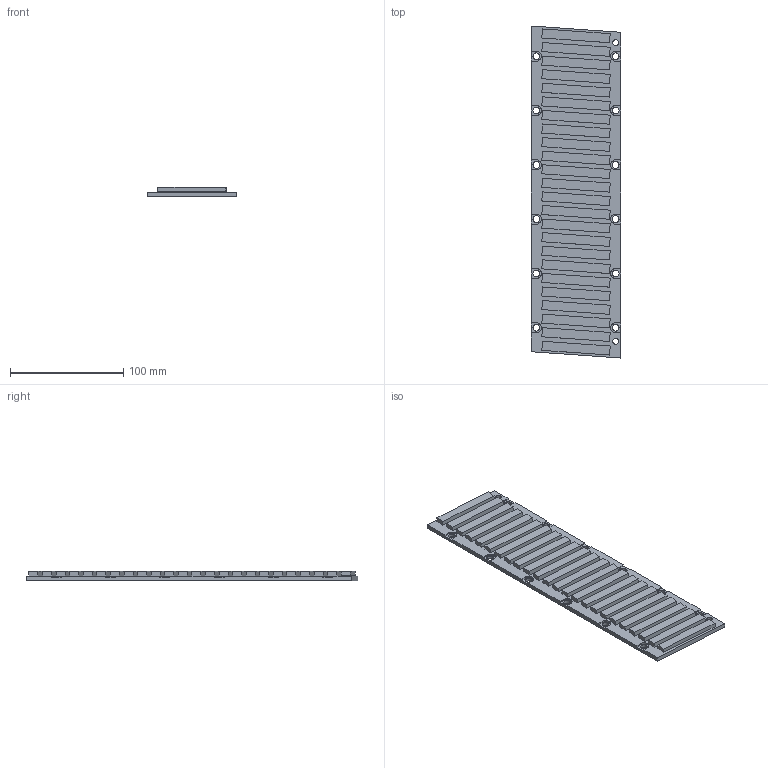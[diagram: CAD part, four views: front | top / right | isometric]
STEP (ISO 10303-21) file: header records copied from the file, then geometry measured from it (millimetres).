
FILE_DESCRIPTION (( 'STEP AP214' ), '1' );
FILE_NAME ('MPV76-288.STEP', '2024-07-24T02:00:52', ( '' ), ( '' ), 'SwSTEP 2.0', 'SolidWorks 2019', '' );
FILE_SCHEMA (( 'AUTOMOTIVE_DESIGN' ));
Length unit declared in the file: millimetre
Products named in the file (1): MPV76-288
Bounding box: 79 x 293.37 x 8 mm (x, y, z)
Volume: 134693.6 mm3; surface area: 84648 mm2
Topology: 25 solids, 25 shells, 232 faces, 546 edges, 364 vertices
Faces by surface type: plane 186, cylinder 46
Entity records: 6908 total; most frequent: CARTESIAN_POINT 1143, DIRECTION 1104, ORIENTED_EDGE 1092, EDGE_CURVE 546, VECTOR 454, LINE 454, VERTEX_POINT 364, AXIS2_PLACEMENT_3D 325
